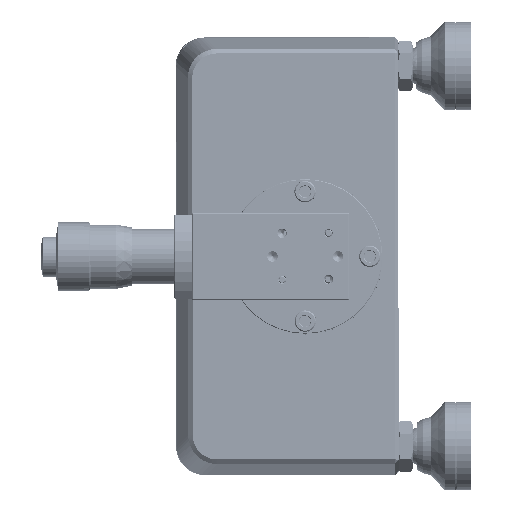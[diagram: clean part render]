
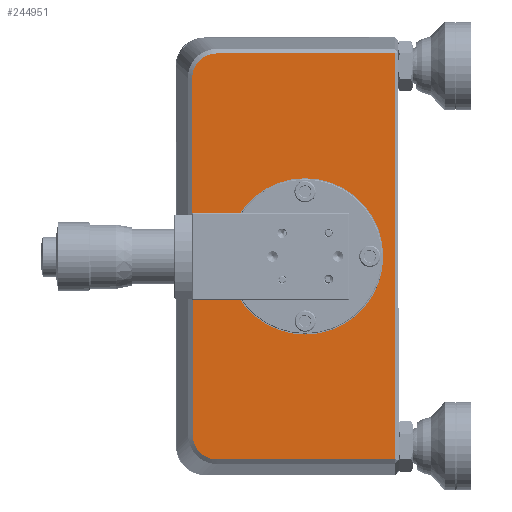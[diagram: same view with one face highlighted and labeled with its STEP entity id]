
A CAD part, left-side view. The second image highlights one B-rep face of the part: STEP entity #244951.
In plain terms, the highlighted planar face has unit normal (-1, -0.002, -0.001).
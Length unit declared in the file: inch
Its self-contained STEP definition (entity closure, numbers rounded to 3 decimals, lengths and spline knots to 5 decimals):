
#859 = DIRECTION ( 'NONE',  ( 0.001, -0.001, -1. ) ) ;
#949 = DIRECTION ( 'NONE',  ( -1., -0.002, -0.001 ) ) ;
#1847 = CARTESIAN_POINT ( 'NONE',  ( -0.09451, -6.66181, -1.31774 ) ) ;
#6766 = VERTEX_POINT ( 'NONE', #338291 ) ;
#11080 = CARTESIAN_POINT ( 'NONE',  ( -0.0918, -8.39689, -1.31549 ) ) ;
#16293 = CARTESIAN_POINT ( 'NONE',  ( -0.09358, -6.70569, -2.97754 ) ) ;
#17872 = CIRCLE ( 'NONE', #171109, 0.67 ) ;
#19244 = ORIENTED_EDGE ( 'NONE', *, *, #169142, .T. ) ;
#20295 = VERTEX_POINT ( 'NONE', #210218 ) ;
#45474 = CARTESIAN_POINT ( 'NONE',  ( -0.09368, -6.6693, -2.90388 ) ) ;
#49121 = CARTESIAN_POINT ( 'NONE',  ( -0.09527, -6.73984, 0.38072 ) ) ;
#54198 = EDGE_CURVE ( 'NONE', #188136, #113927, #306908, .T. ) ;
#83327 = DIRECTION ( 'NONE',  ( 1., 0.002, 0.001 ) ) ;
#93394 = CARTESIAN_POINT ( 'NONE',  ( -0.093, -7.62689, -1.31649 ) ) ;
#95202 = VECTOR ( 'NONE', #109912, 39.37008 ) ;
#95384 = FACE_OUTER_BOUND ( 'NONE', #111536, .T. ) ;
#96970 = CARTESIAN_POINT ( 'NONE',  ( -0.09337, -6.81799, -3.05219 ) ) ;
#99742 = DIRECTION ( 'NONE',  ( 0.002, -1., 0.001 ) ) ;
#104328 = CARTESIAN_POINT ( 'NONE',  ( -0.09531, -6.65983, 0.21342 ) ) ;
#105058 = CARTESIAN_POINT ( 'NONE',  ( -0.09089, -8.39914, -3.05557 ) ) ;
#105253 = VECTOR ( 'NONE', #99742, 39.37008 ) ;
#109912 = DIRECTION ( 'NONE',  ( 0.001, -0.001, -1. ) ) ;
#110694 = VERTEX_POINT ( 'NONE', #171224 ) ;
#111536 = EDGE_LOOP ( 'NONE', ( #149346, #19244, #287638, #256544, #227210, #218785 ) ) ;
#113927 = VERTEX_POINT ( 'NONE', #267225 ) ;
#118735 = VECTOR ( 'NONE', #200095, 39.37008 ) ;
#123083 = ORIENTED_EDGE ( 'NONE', *, *, #189447, .F. ) ;
#127791 = CARTESIAN_POINT ( 'NONE',  ( -0.09335, -7.62602, -0.64649 ) ) ;
#127996 = CARTESIAN_POINT ( 'NONE',  ( -0.09532, -6.68593, 0.31891 ) ) ;
#136305 = CARTESIAN_POINT ( 'NONE',  ( -0.09324, -7.47689, -1.31668 ) ) ;
#148205 = AXIS2_PLACEMENT_3D ( 'NONE', #93394, #172130, #331660 ) ;
#149346 = ORIENTED_EDGE ( 'NONE', *, *, #192539, .T. ) ;
#149997 = CARTESIAN_POINT ( 'NONE',  ( -0.0935, -6.74424, -3.01599 ) ) ;
#159017 = VERTEX_POINT ( 'NONE', #226106 ) ;
#159440 = CARTESIAN_POINT ( 'NONE',  ( -0.09233, -7.47915, -3.05676 ) ) ;
#162888 = LINE ( 'NONE', #1847, #95202 ) ;
#169142 = EDGE_CURVE ( 'NONE', #6766, #283717, #236765, .T. ) ;
#170515 = B_SPLINE_CURVE_WITH_KNOTS ( 'NONE', 3,
 ( #330133, #249564, #45474, #199767, #16293, #149997, #331847, #96970, #306107, #301088 ),
 .UNSPECIFIED., .F., .F.,
 ( 4, 2, 2, 2, 4 ),
 ( 0., 0.25, 0.5, 0.75, 1. ),
 .UNSPECIFIED. ) ;
#171109 = AXIS2_PLACEMENT_3D ( 'NONE', #265052, #949, #208537 ) ;
#171224 = CARTESIAN_POINT ( 'NONE',  ( -0.09509, -6.86848, 0.42261 ) ) ;
#172130 = DIRECTION ( 'NONE',  ( -1., -0.002, -0.001 ) ) ;
#174314 = B_SPLINE_CURVE_WITH_KNOTS ( 'NONE', 3,
 ( #208598, #181057, #258331, #284082, #49121, #311517, #127996, #337213, #237653, #260028 ),
 .UNSPECIFIED., .F., .F.,
 ( 4, 2, 2, 2, 4 ),
 ( 0., 0.25, 0.5, 0.75, 1. ),
 .UNSPECIFIED. ) ;
#175768 = FACE_BOUND ( 'NONE', #255096, .T. ) ;
#181057 = CARTESIAN_POINT ( 'NONE',  ( -0.09514, -6.84099, 0.42257 ) ) ;
#188136 = VERTEX_POINT ( 'NONE', #127791 ) ;
#189447 = EDGE_CURVE ( 'NONE', #113927, #188136, #17872, .T. ) ;
#192539 = EDGE_CURVE ( 'NONE', #20295, #6766, #170515, .T. ) ;
#199767 = CARTESIAN_POINT ( 'NONE',  ( -0.09362, -6.69017, -2.95432 ) ) ;
#200095 = DIRECTION ( 'NONE',  ( -0.002, 1., -0.001 ) ) ;
#205055 = PLANE ( 'NONE',  #265491 ) ;
#208537 = DIRECTION ( 'NONE',  ( -0.001, 0.001, 1. ) ) ;
#208598 = CARTESIAN_POINT ( 'NONE',  ( -0.09509, -6.86848, 0.42261 ) ) ;
#210218 = CARTESIAN_POINT ( 'NONE',  ( -0.09372, -6.6638, -2.8489 ) ) ;
#218785 = ORIENTED_EDGE ( 'NONE', *, *, #278361, .T. ) ;
#226106 = CARTESIAN_POINT ( 'NONE',  ( -0.09271, -8.39463, 0.42459 ) ) ;
#227210 = ORIENTED_EDGE ( 'NONE', *, *, #265985, .T. ) ;
#236765 = LINE ( 'NONE', #159440, #105253 ) ;
#237653 = CARTESIAN_POINT ( 'NONE',  ( -0.09532, -6.65979, 0.24096 ) ) ;
#244951 = ADVANCED_FACE ( 'NONE', ( #95384, #175768 ), #205055, .F. ) ;
#249564 = CARTESIAN_POINT ( 'NONE',  ( -0.0937, -6.66383, -2.87638 ) ) ;
#255096 = EDGE_LOOP ( 'NONE', ( #329609, #123083 ) ) ;
#256544 = ORIENTED_EDGE ( 'NONE', *, *, #260996, .T. ) ;
#258331 = CARTESIAN_POINT ( 'NONE',  ( -0.09518, -6.8135, 0.4171 ) ) ;
#260028 = CARTESIAN_POINT ( 'NONE',  ( -0.09531, -6.65983, 0.21342 ) ) ;
#260996 = EDGE_CURVE ( 'NONE', #159017, #110694, #284141, .T. ) ;
#265052 = CARTESIAN_POINT ( 'NONE',  ( -0.093, -7.62689, -1.31649 ) ) ;
#265120 = VECTOR ( 'NONE', #271769, 39.37008 ) ;
#265491 = AXIS2_PLACEMENT_3D ( 'NONE', #136305, #83327, #859 ) ;
#265985 = EDGE_CURVE ( 'NONE', #110694, #285210, #174314, .T. ) ;
#267225 = CARTESIAN_POINT ( 'NONE',  ( -0.09266, -7.62776, -1.98649 ) ) ;
#271769 = DIRECTION ( 'NONE',  ( -0.001, 0.001, 1. ) ) ;
#278361 = EDGE_CURVE ( 'NONE', #285210, #20295, #162888, .T. ) ;
#283717 = VERTEX_POINT ( 'NONE', #105058 ) ;
#284082 = CARTESIAN_POINT ( 'NONE',  ( -0.09524, -6.76305, 0.39624 ) ) ;
#284141 = LINE ( 'NONE', #332176, #118735 ) ;
#285210 = VERTEX_POINT ( 'NONE', #104328 ) ;
#287638 = ORIENTED_EDGE ( 'NONE', *, *, #312421, .T. ) ;
#299238 = LINE ( 'NONE', #11080, #265120 ) ;
#301088 = CARTESIAN_POINT ( 'NONE',  ( -0.09328, -6.87299, -3.05755 ) ) ;
#306107 = CARTESIAN_POINT ( 'NONE',  ( -0.09332, -6.84545, -3.05758 ) ) ;
#306908 = CIRCLE ( 'NONE', #148205, 0.67 ) ;
#311517 = CARTESIAN_POINT ( 'NONE',  ( -0.09531, -6.70138, 0.34217 ) ) ;
#312421 = EDGE_CURVE ( 'NONE', #283717, #159017, #299238, .T. ) ;
#329609 = ORIENTED_EDGE ( 'NONE', *, *, #54198, .F. ) ;
#330133 = CARTESIAN_POINT ( 'NONE',  ( -0.09372, -6.6638, -2.8489 ) ) ;
#331660 = DIRECTION ( 'NONE',  ( -0.001, 0.001, 1. ) ) ;
#331847 = CARTESIAN_POINT ( 'NONE',  ( -0.09346, -6.7675, -3.03145 ) ) ;
#332176 = CARTESIAN_POINT ( 'NONE',  ( -0.09414, -7.47463, 0.42339 ) ) ;
#337213 = CARTESIAN_POINT ( 'NONE',  ( -0.09533, -6.66519, 0.26841 ) ) ;
#338291 = CARTESIAN_POINT ( 'NONE',  ( -0.09328, -6.87299, -3.05755 ) ) ;
